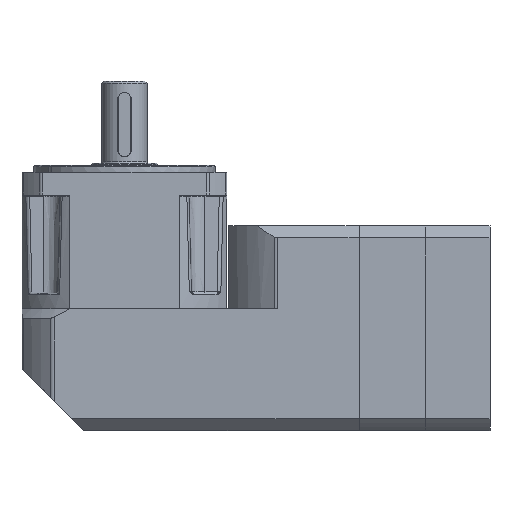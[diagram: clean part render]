
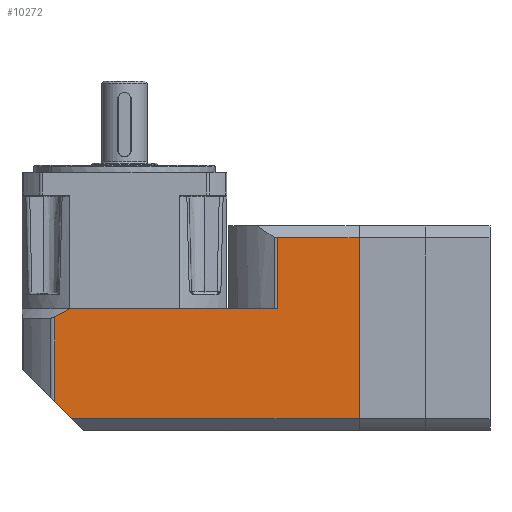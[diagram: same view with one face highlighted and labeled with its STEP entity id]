
A CAD part, front view. The second image highlights one B-rep face of the part: STEP entity #10272.
In plain terms, the highlighted planar face has unit normal (0, -1, 0).
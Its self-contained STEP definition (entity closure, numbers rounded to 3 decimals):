
#9558=DIRECTION('',(0.,0.,1.));
#9559=VECTOR('',#9558,126.1);
#9560=CARTESIAN_POINT('',(39.7,-45.,21.9));
#9561=LINE('',#9560,#9559);
#9562=DIRECTION('',(0.707,0.,0.707));
#9563=VECTOR('',#9562,10.691);
#9564=CARTESIAN_POINT('',(32.141,-45.,14.341));
#9565=LINE('',#9564,#9563);
#9566=DIRECTION('',(1.,0.,0.));
#9567=VECTOR('',#9566,37.189);
#9568=CARTESIAN_POINT('',(-5.048,-45.,14.341));
#9569=LINE('',#9568,#9567);
#9570=DIRECTION('',(1.,0.,0.));
#9571=VECTOR('',#9570,31.2);
#9572=CARTESIAN_POINT('',(-39.7,-45.,112.262));
#9573=LINE('',#9572,#9571);
#9574=DIRECTION('',(0.,0.,1.));
#9575=VECTOR('',#9574,35.738);
#9576=CARTESIAN_POINT('',(-39.7,-45.,112.262));
#9577=LINE('',#9576,#9575);
#9598=CARTESIAN_POINT('',(-8.5,-45.,21.));
#9599=CARTESIAN_POINT('',(-8.167,-45.,20.292));
#9600=CARTESIAN_POINT('',(-7.467,-45.,18.854));
#9601=CARTESIAN_POINT('',(-6.322,-45.,16.643));
#9602=CARTESIAN_POINT('',(-5.485,-45.,15.116));
#9603=CARTESIAN_POINT('',(-5.048,-45.,14.341));
#9611=CARTESIAN_POINT('',(-5.048,-45.,14.341));
#9642=DIRECTION('',(0.,0.,-1.));
#9643=VECTOR('',#9642,91.262);
#9644=CARTESIAN_POINT('',(-8.5,-45.,112.262));
#9645=LINE('',#9644,#9643);
#9774=DIRECTION('',(1.,0.,0.));
#9775=VECTOR('',#9774,79.4);
#9776=CARTESIAN_POINT('',(-39.7,-45.,148.));
#9777=LINE('',#9776,#9775);
#10003=CARTESIAN_POINT('',(-8.5,-45.,21.));
#10005=VERTEX_POINT('',#10003);
#10036=CARTESIAN_POINT('',(-8.5,-45.,112.262));
#10037=VERTEX_POINT('',#10036);
#10043=CARTESIAN_POINT('',(39.7,-45.,148.));
#10045=VERTEX_POINT('',#10043);
#10050=CARTESIAN_POINT('',(-39.7,-45.,148.));
#10052=VERTEX_POINT('',#10050);
#10062=CARTESIAN_POINT('',(39.7,-45.,21.9));
#10063=VERTEX_POINT('',#10062);
#10064=CARTESIAN_POINT('',(-39.7,-45.,112.262));
#10065=VERTEX_POINT('',#10064);
#10097=VERTEX_POINT('',#9611);
#10098=CARTESIAN_POINT('',(32.141,-45.,14.341));
#10099=VERTEX_POINT('',#10098);
#10251=CARTESIAN_POINT('',(-45.,-45.,0.));
#10252=DIRECTION('',(0.,-1.,0.));
#10253=DIRECTION('',(1.,0.,0.));
#10254=AXIS2_PLACEMENT_3D('',#10251,#10252,#10253);
#10255=PLANE('',#10254);
#10256=ORIENTED_EDGE('',*,*,#10243,.F.);
#10257=ORIENTED_EDGE('',*,*,#10199,.F.);
#10259=ORIENTED_EDGE('',*,*,#10258,.F.);
#10261=ORIENTED_EDGE('',*,*,#10260,.F.);
#10263=ORIENTED_EDGE('',*,*,#10262,.F.);
#10265=ORIENTED_EDGE('',*,*,#10264,.F.);
#10267=ORIENTED_EDGE('',*,*,#10266,.T.);
#10269=ORIENTED_EDGE('',*,*,#10268,.T.);
#10270=EDGE_LOOP('',(#10256,#10257,#10259,#10261,#10263,#10265,#10267,#10269));
#10271=FACE_OUTER_BOUND('',#10270,.F.);
#10272=ADVANCED_FACE('',(#10271),#10255,.T.);
#9604=B_SPLINE_CURVE_WITH_KNOTS('',3,(#9598,#9599,#9600,#9601,#9602,#9603),
.UNSPECIFIED.,.F.,.F.,(4,1,1,4),(0.,0.333,0.667,1.),
.UNSPECIFIED.);
#10199=EDGE_CURVE('',#10099,#10063,#9565,.T.);
#10243=EDGE_CURVE('',#10063,#10045,#9561,.T.);
#10258=EDGE_CURVE('',#10097,#10099,#9569,.T.);
#10260=EDGE_CURVE('',#10005,#10097,#9604,.T.);
#10262=EDGE_CURVE('',#10037,#10005,#9645,.T.);
#10264=EDGE_CURVE('',#10065,#10037,#9573,.T.);
#10266=EDGE_CURVE('',#10065,#10052,#9577,.T.);
#10268=EDGE_CURVE('',#10052,#10045,#9777,.T.);
